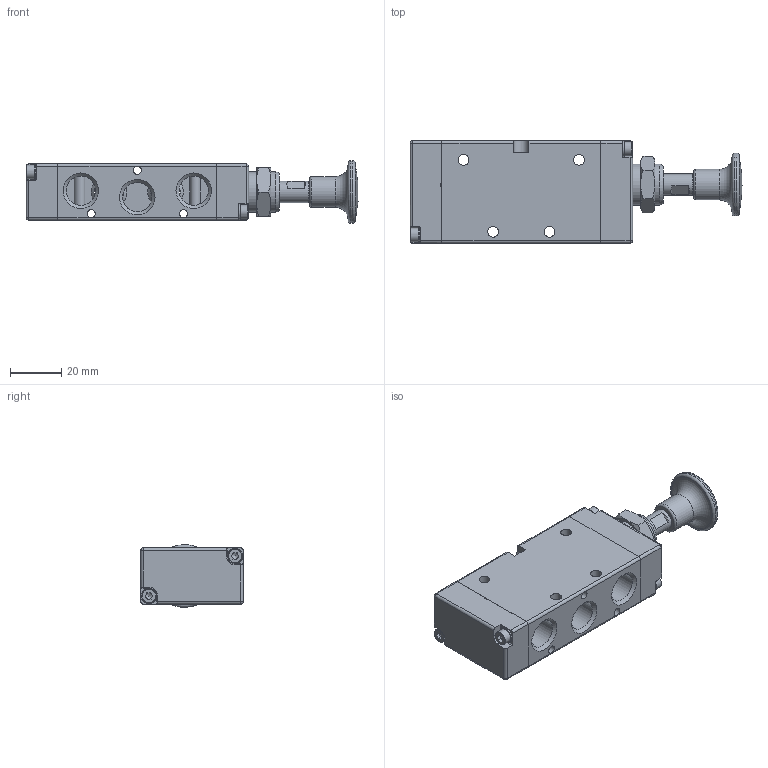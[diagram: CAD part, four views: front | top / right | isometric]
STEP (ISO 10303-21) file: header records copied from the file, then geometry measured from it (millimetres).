
FILE_DESCRIPTION (( 'STEP AP214' ), '1' );
FILE_NAME ('282398.STEP', '2013-09-17T13:57:38', ( 'ST01' ), ( '' ), 'SwSTEP 2.0', 'SolidWorks 2012', '' );
FILE_SCHEMA (( 'AUTOMOTIVE_DESIGN' ));
Length unit declared in the file: millimetre
Products named in the file (1): 282398
Bounding box: 129.46 x 40 x 24.44 mm (x, y, z)
Surface area: 20501.7 mm2 (no closed solid volume)
Topology: 0 solids, 14 shells, 216 faces, 636 edges, 412 vertices
Faces by surface type: plane 103, cylinder 65, cone 26, torus 16, sphere 5, bspline 1
Full cylindrical faces by diameter (mm): 3.1 x3, 4.2 x4, 5.5 x4, 8.3 x1, 8.5 x1, 11.445 x5, 12 x1, 16 x1, 24.5 x1
Entity records: 10341 total; most frequent: CARTESIAN_POINT 2563, DIRECTION 1124, ORIENTED_EDGE 973, EDGE_CURVE 579, AXIS2_PLACEMENT_3D 413, VERTEX_POINT 401, VECTOR 298, LINE 298
